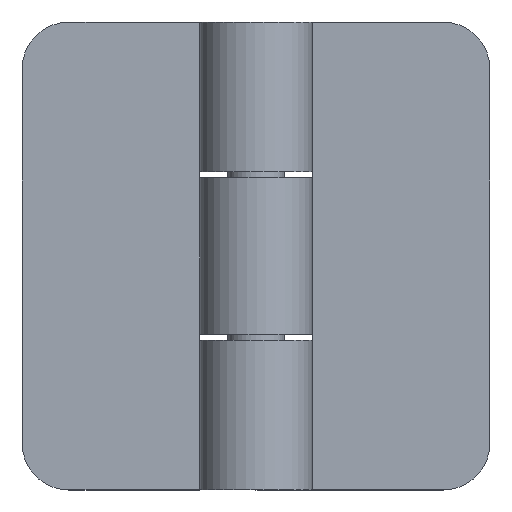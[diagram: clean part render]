
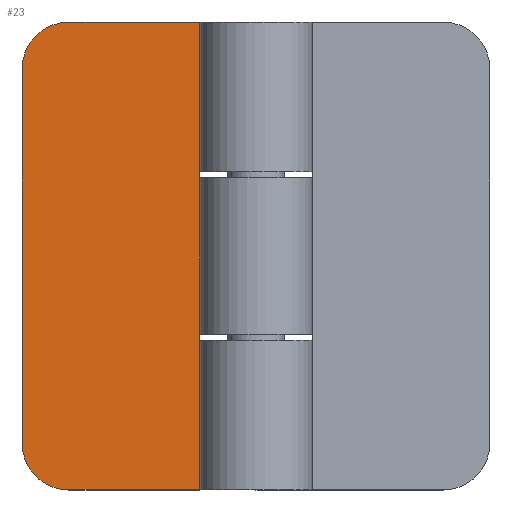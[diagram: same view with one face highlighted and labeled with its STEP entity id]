
A CAD part, top view. The second image highlights one B-rep face of the part: STEP entity #23.
In plain terms, the highlighted planar face has unit normal (0, 0, 1).
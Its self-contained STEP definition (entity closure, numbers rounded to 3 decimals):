
#23=ADVANCED_FACE('',(#57),#550,.T.);
#57=FACE_OUTER_BOUND('',#91,.T.);
#91=EDGE_LOOP('',(#146,#147,#148,#149,#150,#151,#152,#153,#154,#155));
#146=ORIENTED_EDGE('',*,*,#299,.F.);
#147=ORIENTED_EDGE('',*,*,#321,.T.);
#148=ORIENTED_EDGE('',*,*,#301,.T.);
#149=ORIENTED_EDGE('',*,*,#314,.T.);
#150=ORIENTED_EDGE('',*,*,#310,.T.);
#151=ORIENTED_EDGE('',*,*,#311,.T.);
#152=ORIENTED_EDGE('',*,*,#304,.T.);
#153=ORIENTED_EDGE('',*,*,#315,.F.);
#154=ORIENTED_EDGE('',*,*,#303,.F.);
#155=ORIENTED_EDGE('',*,*,#323,.T.);
#299=EDGE_CURVE('',#501,#500,#436,.T.);
#301=EDGE_CURVE('',#502,#485,#438,.T.);
#303=EDGE_CURVE('',#503,#482,#439,.T.);
#304=EDGE_CURVE('',#493,#483,#440,.T.);
#310=EDGE_CURVE('',#484,#492,#444,.T.);
#311=EDGE_CURVE('',#492,#493,#445,.T.);
#314=EDGE_CURVE('',#485,#484,#448,.T.);
#315=EDGE_CURVE('',#482,#483,#449,.T.);
#321=EDGE_CURVE('',#501,#502,#377,.T.);
#323=EDGE_CURVE('',#503,#500,#379,.T.);
#377=TRIMMED_CURVE($,#401,(#909),(#910),.T.,.CARTESIAN.);
#379=TRIMMED_CURVE($,#403,(#915),(#916),.T.,.CARTESIAN.);
#401=CIRCLE('',#674,5.);
#403=CIRCLE('',#676,5.);
#436=B_SPLINE_CURVE_WITH_KNOTS('',1,(#855,#856),.UNSPECIFIED.,.F.,.F.,(2,
2),(5.,45.),.UNSPECIFIED.);
#438=B_SPLINE_CURVE_WITH_KNOTS('',1,(#859,#860),.UNSPECIFIED.,.F.,.F.,(2,
2),(-38.643,-24.643),.UNSPECIFIED.);
#439=B_SPLINE_CURVE_WITH_KNOTS('',1,(#863,#864),.UNSPECIFIED.,.F.,.F.,(2,
2),(-38.643,-24.643),.UNSPECIFIED.);
#440=B_SPLINE_CURVE_WITH_KNOTS('',1,(#865,#866),.UNSPECIFIED.,.F.,.F.,(2,
2),(-70.35,-64.35),.UNSPECIFIED.);
#444=B_SPLINE_CURVE_WITH_KNOTS('',1,(#879,#880),.UNSPECIFIED.,.F.,.F.,(2,
2),(-76.35,-70.35),.UNSPECIFIED.);
#445=B_SPLINE_CURVE_WITH_KNOTS('',1,(#881,#882),.UNSPECIFIED.,.F.,.F.,(2,
2),(16.65,33.35),.UNSPECIFIED.);
#448=B_SPLINE_CURVE_WITH_KNOTS('',1,(#889,#890,#891),.UNSPECIFIED.,.F.,
 .F.,(2,1,2),(-93.,-77.,-76.35),.UNSPECIFIED.);
#449=B_SPLINE_CURVE_WITH_KNOTS('',1,(#892,#893,#894),.UNSPECIFIED.,.F.,
 .F.,(2,1,2),(19.,35.,35.65),.UNSPECIFIED.);
#482=VERTEX_POINT('',#811);
#483=VERTEX_POINT('',#812);
#484=VERTEX_POINT('',#813);
#485=VERTEX_POINT('',#814);
#492=VERTEX_POINT('',#821);
#493=VERTEX_POINT('',#822);
#500=VERTEX_POINT('',#829);
#501=VERTEX_POINT('',#830);
#502=VERTEX_POINT('',#831);
#503=VERTEX_POINT('',#832);
#550=PLANE('',#660);
#660=AXIS2_PLACEMENT_3D('',#800,#718,$);
#674=AXIS2_PLACEMENT_3D($,#908,#737,#738);
#676=AXIS2_PLACEMENT_3D($,#914,#741,#742);
#718=DIRECTION('',(0.,0.,1.));
#737=DIRECTION('',(0.,0.,1.));
#738=DIRECTION('',(-1.,0.,0.));
#741=DIRECTION('',(0.,0.,1.));
#742=DIRECTION('',(0.,1.,0.));
#800=CARTESIAN_POINT('',(-25.414,0.,7.068));
#811=CARTESIAN_POINT('',(-6.414,50.,7.068));
#812=CARTESIAN_POINT('',(-6.414,33.35,7.068));
#813=CARTESIAN_POINT('',(-6.414,16.65,7.068));
#814=CARTESIAN_POINT('',(-6.414,0.,7.068));
#821=CARTESIAN_POINT('',(-0.414,16.65,7.068));
#822=CARTESIAN_POINT('',(-0.414,33.35,7.068));
#829=CARTESIAN_POINT('',(-25.414,45.,7.068));
#830=CARTESIAN_POINT('',(-25.414,5.,7.068));
#831=CARTESIAN_POINT('',(-20.414,0.,7.068));
#832=CARTESIAN_POINT('',(-20.414,50.,7.068));
#855=CARTESIAN_POINT('',(-25.414,5.,7.068));
#856=CARTESIAN_POINT('',(-25.414,45.,7.068));
#859=CARTESIAN_POINT('',(-20.414,0.,7.068));
#860=CARTESIAN_POINT('',(-6.414,0.,7.068));
#863=CARTESIAN_POINT('',(-20.414,50.,7.068));
#864=CARTESIAN_POINT('',(-6.414,50.,7.068));
#865=CARTESIAN_POINT('',(-0.414,33.35,7.068));
#866=CARTESIAN_POINT('',(-6.414,33.35,7.068));
#879=CARTESIAN_POINT('',(-6.414,16.65,7.068));
#880=CARTESIAN_POINT('',(-0.414,16.65,7.068));
#881=CARTESIAN_POINT('',(-0.414,16.65,7.068));
#882=CARTESIAN_POINT('',(-0.414,33.35,7.068));
#889=CARTESIAN_POINT('',(-6.414,0.,7.068));
#890=CARTESIAN_POINT('',(-6.414,16.,7.068));
#891=CARTESIAN_POINT('',(-6.414,16.65,7.068));
#892=CARTESIAN_POINT('',(-6.414,50.,7.068));
#893=CARTESIAN_POINT('',(-6.414,34.,7.068));
#894=CARTESIAN_POINT('',(-6.414,33.35,7.068));
#908=CARTESIAN_POINT('',(-20.414,5.,7.068));
#909=CARTESIAN_POINT('',(-25.414,5.,7.068));
#910=CARTESIAN_POINT('',(-20.414,0.,7.068));
#914=CARTESIAN_POINT('',(-20.414,45.,7.068));
#915=CARTESIAN_POINT('',(-20.414,50.,7.068));
#916=CARTESIAN_POINT('',(-25.414,45.,7.068));
